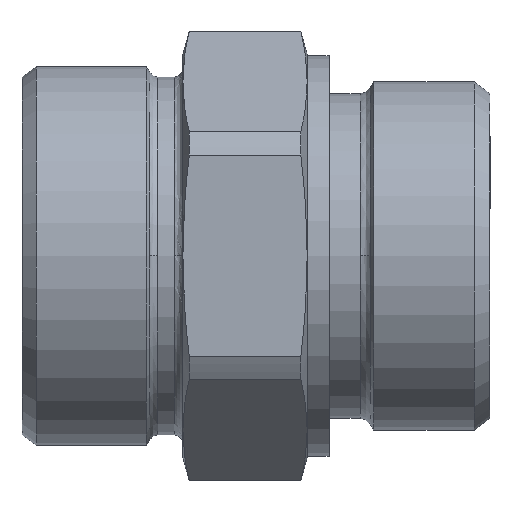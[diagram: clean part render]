
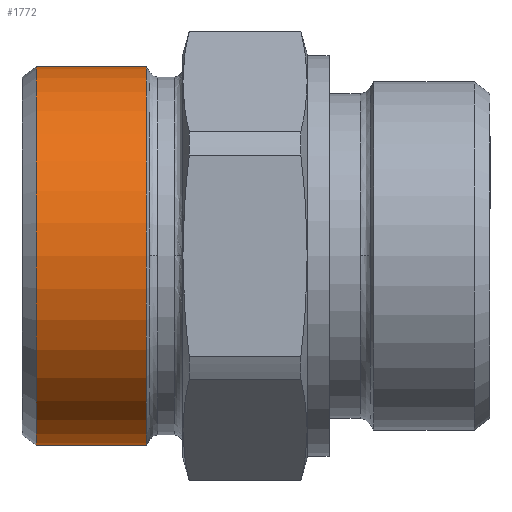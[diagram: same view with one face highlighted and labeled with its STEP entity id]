
A CAD part, top view. The second image highlights one B-rep face of the part: STEP entity #1772.
In plain terms, the highlighted cylindrical face has radius 25.91 mm (diameter 51.82 mm), a partial arc.
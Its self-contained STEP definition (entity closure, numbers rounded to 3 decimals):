
#908=CARTESIAN_POINT('',(0.,-25.91,28.563));
#909=VERTEX_POINT('',#908);
#910=CARTESIAN_POINT('',(0.,-25.91,13.493));
#911=VERTEX_POINT('',#910);
#912=CARTESIAN_POINT('',(0.,-25.91,28.563));
#913=DIRECTION('',(0.0,0.0,-1.0));
#914=VECTOR('',#913,15.07);
#915=LINE('',#912,#914);
#916=EDGE_CURVE('',#909,#911,#915,.T.);
#918=CARTESIAN_POINT('',(0.,25.91,28.563));
#919=VERTEX_POINT('',#918);
#927=CARTESIAN_POINT('',(0.,25.91,13.493));
#928=VERTEX_POINT('',#927);
#929=CARTESIAN_POINT('',(0.,25.91,13.493));
#930=DIRECTION('',(0.0,0.0,1.0));
#931=VECTOR('',#930,15.07);
#932=LINE('',#929,#931);
#933=EDGE_CURVE('',#928,#919,#932,.T.);
#1648=CARTESIAN_POINT('',(0.,0.,13.493));
#1649=DIRECTION('',(0.0,0.0,-1.0));
#1650=DIRECTION('',(0.0,-1.0,0.0));
#1651=AXIS2_PLACEMENT_3D('',#1648,#1649,#1650);
#1652=CIRCLE('',#1651,25.91);
#1653=EDGE_CURVE('',#928,#911,#1652,.T.);
#1749=CARTESIAN_POINT('',(0.,0.,28.563));
#1750=DIRECTION('',(0.0,0.0,-1.0));
#1751=DIRECTION('',(0.0,-1.0,0.0));
#1752=AXIS2_PLACEMENT_3D('',#1749,#1750,#1751);
#1753=CIRCLE('',#1752,25.91);
#1754=EDGE_CURVE('',#919,#909,#1753,.T.);
#1761=CARTESIAN_POINT('',(0.,0.,21.028));
#1762=DIRECTION('',(0.,0.,-1.0));
#1763=DIRECTION('',(0.0,-1.0,0.0));
#1764=AXIS2_PLACEMENT_3D('',#1761,#1762,#1763);
#1765=CYLINDRICAL_SURFACE('',#1764,25.91);
#1766=ORIENTED_EDGE('',*,*,#916,.T.);
#1767=ORIENTED_EDGE('',*,*,#1653,.F.);
#1768=ORIENTED_EDGE('',*,*,#933,.T.);
#1769=ORIENTED_EDGE('',*,*,#1754,.T.);
#1770=EDGE_LOOP('',(#1766,#1767,#1768,#1769));
#1771=FACE_OUTER_BOUND('',#1770,.T.);
#1772=ADVANCED_FACE('',(#1771),#1765,.T.);
